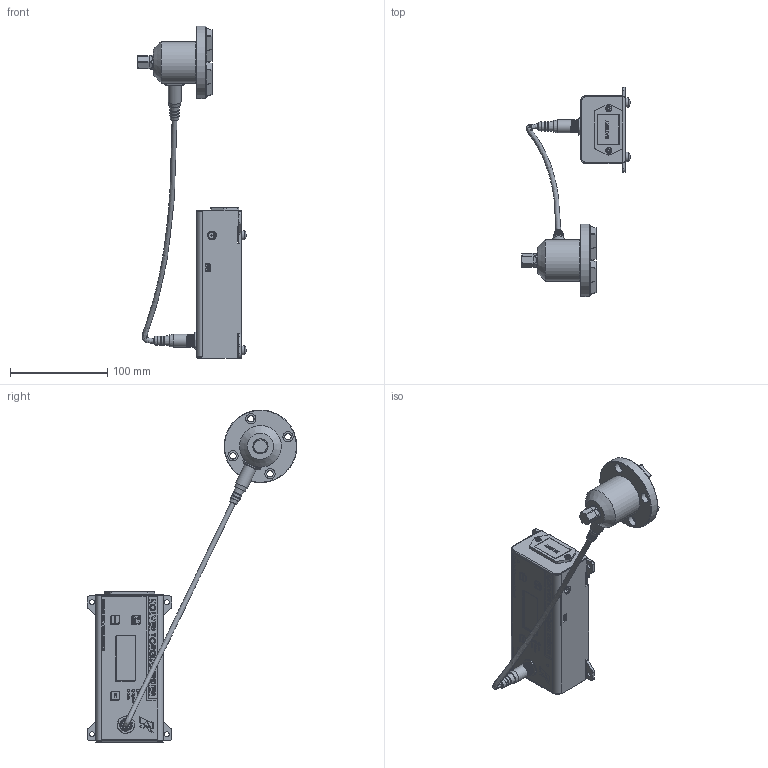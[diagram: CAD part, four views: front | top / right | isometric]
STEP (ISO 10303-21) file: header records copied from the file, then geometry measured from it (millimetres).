
FILE_DESCRIPTION (( 'STEP AP214' ), '1' );
FILE_NAME ('Mini K-F5.STEP', '2025-12-19T14:33:17', ( '' ), ( '' ), 'SwSTEP 2.0', 'SolidWorks 2024', '' );
FILE_SCHEMA (( 'AUTOMOTIVE_DESIGN' ));
Length unit declared in the file: millimetre
Products named in the file (1): Mini K-F5
Bounding box: 111.5 x 215.85 x 342 mm (x, y, z)
Surface area: 126937.1 mm2 (no closed solid volume)
Topology: 0 solids, 136 shells, 599 faces, 3604 edges, 3117 vertices
Faces by surface type: plane 357, cylinder 187, cone 25, torus 22, bspline 8
Full cylindrical faces by diameter (mm): 1.35 x1, 3 x7, 4 x4, 5 x4, 5.5 x3, 6 x1, 6.3 x1, 6.5 x4, 7.5 x8, 9 x1, 9.069 x4, 9.5 x4, 9.6 x4, 10.5 x4, 10.7 x1, 11 x4, 12 x8, 13.3 x2, 15 x1, 15.2 x1, 43 x1, 75 x1
Entity records: 47547 total; most frequent: CARTESIAN_POINT 15496, DIRECTION 4708, ORIENTED_EDGE 4228, EDGE_CURVE 3454, VERTEX_POINT 3076, VECTOR 2206, LINE 2206, AXIS2_PLACEMENT_3D 1251
